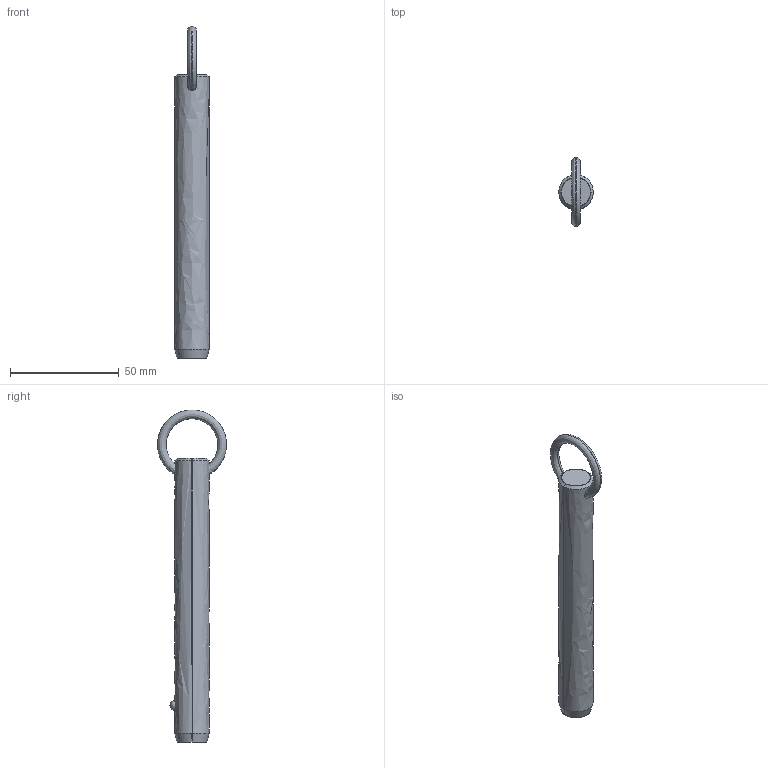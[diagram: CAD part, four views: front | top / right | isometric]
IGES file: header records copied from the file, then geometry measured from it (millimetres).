
Start section: SolidWorks IGES file using analytic representation for surfaces
Global section: file name: C:\Users\liam_\OneDrive\Documents\WORK\Work for WixRoyd\Job Files\J-00019 - Matt Davis CAD Checking\04. CAD Drawings\automotion20190605\P1250.2_v2\P1250.2_v2_20190729_IGES\P1250.062-400.igs; native system: SolidWorks 2017; preprocessor: SolidWorks 2017; author: liam_; date: 190729.233650; units: millimetre
Bounding box: 15.8 x 31.67 x 152.3 mm (x, y, z)
Surface area: 7631.6 mm2 (no closed solid volume)
Topology: 0 solids, 0 shells, 12 faces, 292 edges, 290 vertices
Faces by surface type: revolution 8, bspline 4
